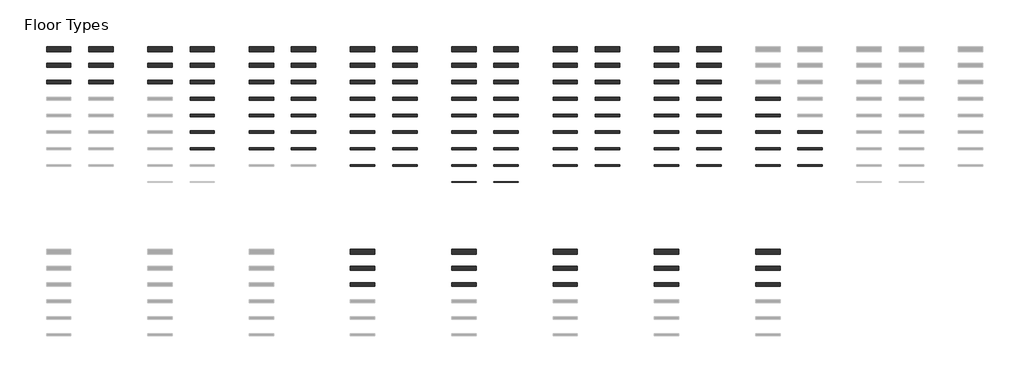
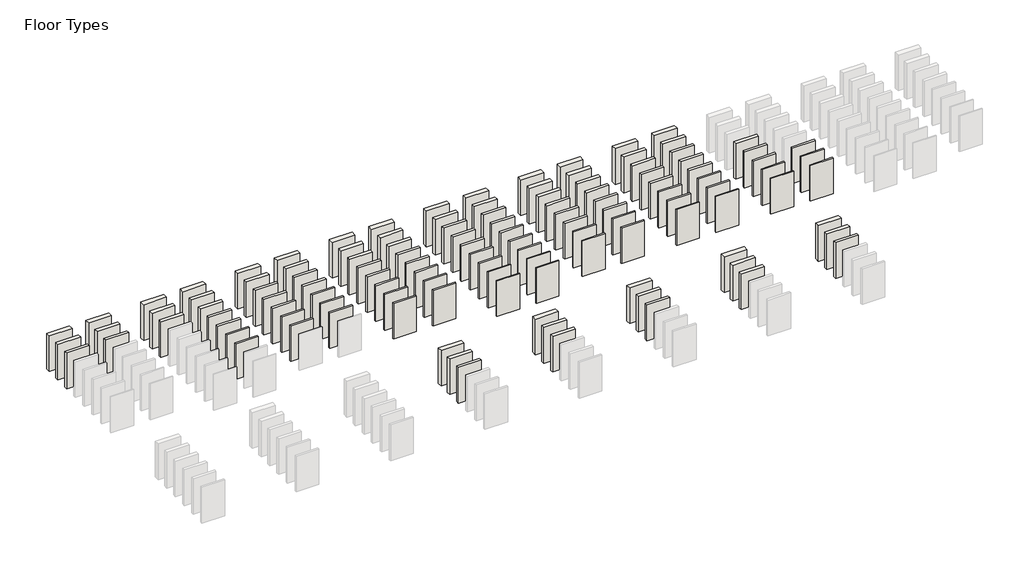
# One storey, part 3 of 4: 119 walls.
"""IFC4 building model written with IfcOpenShell, lengths in millimetres."""

from ifc_helpers import new_model, si_unit, origin, origin_with_axes, place, context, project, spatial, polyline, outline, extrude, element, save

model = new_model("IFC4")

# Units and contexts
model_context = context("Model", 3, world=origin())
ifc_project = project(units=[si_unit("LENGTHUNIT", "METRE", prefix="MILLI")], contexts=[model_context])

# Site, building, storey
site = spatial("IfcSite", under=ifc_project)
building = spatial("IfcBuilding", under=site)
storey = spatial("IfcBuildingStorey", under=building, Name="Floor Types", Elevation=0.0)

# Walls
placement = place(None, origin())
element("IfcWall", 1, ObjectType="ASTL_PS1200ZW_Hz_300mm", at=placement, inside=storey, context=model_context, shape_type="SweptSolid", body=[
    extrude(outline(polyline([(1447.8085217, -17299.0), (0.0, -17299.0), (0.0, -16999.0), (1447.8085217, -16999.0), (1447.8085217, -17299.0)])), origin_with_axes(), (0.0, 0.0, 1.0), 2400.0),
])
element("IfcWall", 2, ObjectType="ASTL_PS1200ZW_Hz_240mm", at=placement, inside=storey, context=model_context, shape_type="SweptSolid", body=[
    extrude(outline(polyline([(1447.8085217, -18238.0), (0.0, -18238.0), (0.0, -17998.0), (1447.8085217, -17998.0), (1447.8085217, -18238.0)])), origin_with_axes(), (0.0, 0.0, 1.0), 2400.0),
])
element("IfcWall", 3, ObjectType="ASTL_PS1200ZW_Hz_200mm", at=placement, inside=storey, context=model_context, shape_type="SweptSolid", body=[
    extrude(outline(polyline([(1447.8085217, -19198.0), (0.0, -19198.0), (0.0, -18998.0), (1447.8085217, -18998.0), (1447.8085217, -19198.0)])), origin_with_axes(), (0.0, 0.0, 1.0), 2400.0),
])
element("IfcWall", 4, ObjectType="ASTL_PS1200ZW_Vt_300mm", at=placement, inside=storey, context=model_context, shape_type="SweptSolid", body=[
    extrude(outline(polyline([(3947.5922316, -17299.0), (2499.78371, -17299.0), (2499.78371, -16999.0), (3947.5922316, -16999.0), (3947.5922316, -17299.0)])), origin_with_axes(), (0.0, 0.0, 1.0), 2400.0),
])
element("IfcWall", 5, ObjectType="ASTL_PS1200ZW_Vt_240mm", at=placement, inside=storey, context=model_context, shape_type="SweptSolid", body=[
    extrude(outline(polyline([(3947.5922316, -18239.0), (2499.78371, -18239.0), (2499.78371, -17999.0), (3947.5922316, -17999.0), (3947.5922316, -18239.0)])), origin_with_axes(), (0.0, 0.0, 1.0), 2400.0),
])
element("IfcWall", 6, ObjectType="ASTL_PS1200ZW_Vt_200mm", at=placement, inside=storey, context=model_context, shape_type="SweptSolid", body=[
    extrude(outline(polyline([(3947.5922316, -19199.0), (2499.78371, -19199.0), (2499.78371, -18999.0), (3947.5922316, -18999.0), (3947.5922316, -19199.0)])), origin_with_axes(), (0.0, 0.0, 1.0), 2400.0),
])
element("IfcWall", 7, ObjectType="ASTE_PS1200ZW_Hz_300mm", at=placement, inside=storey, context=model_context, shape_type="SweptSolid", body=[
    extrude(outline(polyline([(7447.8085217, -17299.0), (6000.0, -17299.0), (6000.0, -16999.0), (7447.8085217, -16999.0), (7447.8085217, -17299.0)])), origin_with_axes(), (0.0, 0.0, 1.0), 2400.0),
])
element("IfcWall", 8, ObjectType="ASTE_PS1200ZW_Hz_240mm", at=placement, inside=storey, context=model_context, shape_type="SweptSolid", body=[
    extrude(outline(polyline([(7447.8085217, -18239.0), (6000.0, -18239.0), (6000.0, -17999.0), (7447.8085217, -17999.0), (7447.8085217, -18239.0)])), origin_with_axes(), (0.0, 0.0, 1.0), 2400.0),
])
element("IfcWall", 9, ObjectType="ASTE_PS1200ZW_Hz_200mm", at=placement, inside=storey, context=model_context, shape_type="SweptSolid", body=[
    extrude(outline(polyline([(7447.8085217, -19199.0), (6000.0, -19199.0), (6000.0, -18999.0), (7447.8085217, -18999.0), (7447.8085217, -19199.0)])), origin_with_axes(), (0.0, 0.0, 1.0), 2400.0),
])
element("IfcWall", 10, ObjectType="ASTE_PS1200ZW_Vt_300mm", at=placement, inside=storey, context=model_context, shape_type="SweptSolid", body=[
    extrude(outline(polyline([(9947.5922316, -17299.0), (8500.0, -17299.0), (8500.0, -16999.0), (9947.5922316, -16999.0), (9947.5922316, -17299.0)])), origin_with_axes(), (0.0, 0.0, 1.0), 2400.0),
])
element("IfcWall", 11, ObjectType="ASTE_PS1200ZW_Vt_240mm", at=placement, inside=storey, context=model_context, shape_type="SweptSolid", body=[
    extrude(outline(polyline([(9947.5922316, -18239.0), (8500.0, -18239.0), (8500.0, -17999.0), (9947.5922316, -17999.0), (9947.5922316, -18239.0)])), origin_with_axes(), (0.0, 0.0, 1.0), 2400.0),
])
element("IfcWall", 12, ObjectType="ASTE_PS1200ZW_Vt_200mm", at=placement, inside=storey, context=model_context, shape_type="SweptSolid", body=[
    extrude(outline(polyline([(9947.5922316, -19199.0), (8500.0, -19199.0), (8500.0, -18999.0), (9947.5922316, -18999.0), (9947.5922316, -19199.0)])), origin_with_axes(), (0.0, 0.0, 1.0), 2400.0),
])
element("IfcWall", 13, ObjectType="ASTE_PS1200ZW_Vt_175mm", at=placement, inside=storey, context=model_context, shape_type="SweptSolid", body=[
    extrude(outline(polyline([(9947.5922316, -20174.0), (8500.0, -20174.0), (8500.0, -19999.0), (9947.5922316, -19999.0), (9947.5922316, -20174.0)])), origin_with_axes(), (0.0, 0.0, 1.0), 2400.0),
])
element("IfcWall", 14, ObjectType="ASTE_PS1200ZW_Vt_150mm", at=placement, inside=storey, context=model_context, shape_type="SweptSolid", body=[
    extrude(outline(polyline([(9947.5922316, -21149.0), (8500.0, -21149.0), (8500.0, -20999.0), (9947.5922316, -20999.0), (9947.5922316, -21149.0)])), origin_with_axes(), (0.0, 0.0, 1.0), 2400.0),
])
element("IfcWall", 15, ObjectType="ASTE_PS1200ZW_Vt_120mm", at=placement, inside=storey, context=model_context, shape_type="SweptSolid", body=[
    extrude(outline(polyline([(9947.5922316, -22119.0), (8500.0, -22119.0), (8500.0, -21999.0), (9947.5922316, -21999.0), (9947.5922316, -22119.0)])), origin_with_axes(), (0.0, 0.0, 1.0), 2400.0),
])
element("IfcWall", 16, ObjectType="ASTE_PS1200ZW_Vt_100mm", at=placement, inside=storey, context=model_context, shape_type="SweptSolid", body=[
    extrude(outline(polyline([(9947.5922316, -23099.0), (8500.0, -23099.0), (8500.0, -22999.0), (9947.5922316, -22999.0), (9947.5922316, -23099.0)])), origin_with_axes(), (0.0, 0.0, 1.0), 2400.0),
])
element("IfcWall", 17, ObjectType="ASTS_PS1200ZW_Hz_300mm", at=placement, inside=storey, context=model_context, shape_type="SweptSolid", body=[
    extrude(outline(polyline([(13447.8085217, -17299.0), (12000.0, -17299.0), (12000.0, -16999.0), (13447.8085217, -16999.0), (13447.8085217, -17299.0)])), origin_with_axes(), (0.0, 0.0, 1.0), 2400.0),
])
element("IfcWall", 18, ObjectType="ASTS_PS1200ZW_Hz_240mm", at=placement, inside=storey, context=model_context, shape_type="SweptSolid", body=[
    extrude(outline(polyline([(13447.8085217, -18239.0), (12000.0, -18239.0), (12000.0, -17999.0), (13447.8085217, -17999.0), (13447.8085217, -18239.0)])), origin_with_axes(), (0.0, 0.0, 1.0), 2400.0),
])
element("IfcWall", 19, ObjectType="ASTS_PS1200ZW_Hz_200mm", at=placement, inside=storey, context=model_context, shape_type="SweptSolid", body=[
    extrude(outline(polyline([(13447.8085217, -19199.0), (12000.0, -19199.0), (12000.0, -18999.0), (13447.8085217, -18999.0), (13447.8085217, -19199.0)])), origin_with_axes(), (0.0, 0.0, 1.0), 2400.0),
])
element("IfcWall", 20, ObjectType="ASTS_PS1200ZW_Hz_175mm", at=placement, inside=storey, context=model_context, shape_type="SweptSolid", body=[
    extrude(outline(polyline([(13447.8085217, -20174.0), (12000.0, -20174.0), (12000.0, -19999.0), (13447.8085217, -19999.0), (13447.8085217, -20174.0)])), origin_with_axes(), (0.0, 0.0, 1.0), 2400.0),
])
element("IfcWall", 21, ObjectType="ASTS_PS1200ZW_Hz_150mm", at=placement, inside=storey, context=model_context, shape_type="SweptSolid", body=[
    extrude(outline(polyline([(13447.8085217, -21149.0), (12000.0, -21149.0), (12000.0, -20999.0), (13447.8085217, -20999.0), (13447.8085217, -21149.0)])), origin_with_axes(), (0.0, 0.0, 1.0), 2400.0),
])
element("IfcWall", 22, ObjectType="ASTS_PS1200ZW_Hz_120mm", at=placement, inside=storey, context=model_context, shape_type="SweptSolid", body=[
    extrude(outline(polyline([(13447.8085217, -22119.0), (12000.0, -22119.0), (12000.0, -21999.0), (13447.8085217, -21999.0), (13447.8085217, -22119.0)])), origin_with_axes(), (0.0, 0.0, 1.0), 2400.0),
])
element("IfcWall", 23, ObjectType="ASTS_PS1200ZW_Hz_100mm", at=placement, inside=storey, context=model_context, shape_type="SweptSolid", body=[
    extrude(outline(polyline([(13447.8085217, -23099.0), (12000.0, -23099.0), (12000.0, -22999.0), (13447.8085217, -22999.0), (13447.8085217, -23099.0)])), origin_with_axes(), (0.0, 0.0, 1.0), 2400.0),
])
element("IfcWall", 24, ObjectType="ASTS_PS1200ZW_Vt_300mm", at=placement, inside=storey, context=model_context, shape_type="SweptSolid", body=[
    extrude(outline(polyline([(15947.8085217, -17299.0), (14500.0, -17299.0), (14500.0, -16999.0), (15947.8085217, -16999.0), (15947.8085217, -17299.0)])), origin_with_axes(), (0.0, 0.0, 1.0), 2400.0),
])
element("IfcWall", 25, ObjectType="ASTS_PS1200ZW_Vt_240mm", at=placement, inside=storey, context=model_context, shape_type="SweptSolid", body=[
    extrude(outline(polyline([(15947.8085217, -18239.0), (14500.0, -18239.0), (14500.0, -17999.0), (15947.8085217, -17999.0), (15947.8085217, -18239.0)])), origin_with_axes(), (0.0, 0.0, 1.0), 2400.0),
])
element("IfcWall", 26, ObjectType="ASTS_PS1200ZW_Vt_200mm", at=placement, inside=storey, context=model_context, shape_type="SweptSolid", body=[
    extrude(outline(polyline([(15947.8085217, -19199.0), (14500.0, -19199.0), (14500.0, -18999.0), (15947.8085217, -18999.0), (15947.8085217, -19199.0)])), origin_with_axes(), (0.0, 0.0, 1.0), 2400.0),
])
element("IfcWall", 27, ObjectType="ASTS_PS1200ZW_Vt_175mm", at=placement, inside=storey, context=model_context, shape_type="SweptSolid", body=[
    extrude(outline(polyline([(15947.8085217, -20174.0), (14500.0, -20174.0), (14500.0, -19999.0), (15947.8085217, -19999.0), (15947.8085217, -20174.0)])), origin_with_axes(), (0.0, 0.0, 1.0), 2400.0),
])
element("IfcWall", 28, ObjectType="ASTS_PS1200ZW_Vt_150mm", at=placement, inside=storey, context=model_context, shape_type="SweptSolid", body=[
    extrude(outline(polyline([(15947.8085217, -21149.0), (14500.0, -21149.0), (14500.0, -20999.0), (15947.8085217, -20999.0), (15947.8085217, -21149.0)])), origin_with_axes(), (0.0, 0.0, 1.0), 2400.0),
])
element("IfcWall", 29, ObjectType="ASTS_PS1200ZW_Vt_120mm", at=placement, inside=storey, context=model_context, shape_type="SweptSolid", body=[
    extrude(outline(polyline([(15947.8085217, -22119.0), (14500.0, -22119.0), (14500.0, -21999.0), (15947.8085217, -21999.0), (15947.8085217, -22119.0)])), origin_with_axes(), (0.0, 0.0, 1.0), 2400.0),
])
element("IfcWall", 30, ObjectType="ASTS_PS1200ZW_Vt_100mm", at=placement, inside=storey, context=model_context, shape_type="SweptSolid", body=[
    extrude(outline(polyline([(15947.8085217, -23099.0), (14500.0, -23099.0), (14500.0, -22999.0), (15947.8085217, -22999.0), (15947.8085217, -23099.0)])), origin_with_axes(), (0.0, 0.0, 1.0), 2400.0),
])
element("IfcWall", 31, ObjectType="ASTL_PS1200PB_Hz_300mm", at=placement, inside=storey, context=model_context, shape_type="SweptSolid", body=[
    extrude(outline(polyline([(19447.8085217, -17299.0), (18000.0, -17299.0), (18000.0, -16999.0), (19447.8085217, -16999.0), (19447.8085217, -17299.0)])), origin_with_axes(), (0.0, 0.0, 1.0), 2400.0),
])
element("IfcWall", 32, ObjectType="ASTL_PS1200PB_Hz_240mm", at=placement, inside=storey, context=model_context, shape_type="SweptSolid", body=[
    extrude(outline(polyline([(19447.8085217, -18239.0), (18000.0, -18239.0), (18000.0, -17999.0), (19447.8085217, -17999.0), (19447.8085217, -18239.0)])), origin_with_axes(), (0.0, 0.0, 1.0), 2400.0),
])
element("IfcWall", 33, ObjectType="ASTL_PS1200PB_Hz_200mm", at=placement, inside=storey, context=model_context, shape_type="SweptSolid", body=[
    extrude(outline(polyline([(19447.8085217, -19199.0), (18000.0, -19199.0), (18000.0, -18999.0), (19447.8085217, -18999.0), (19447.8085217, -19199.0)])), origin_with_axes(), (0.0, 0.0, 1.0), 2400.0),
])
element("IfcWall", 34, ObjectType="ASTL_PS1200PB_Hz_175mm", at=placement, inside=storey, context=model_context, shape_type="SweptSolid", body=[
    extrude(outline(polyline([(19447.8085217, -20174.0), (18000.0, -20174.0), (18000.0, -19999.0), (19447.8085217, -19999.0), (19447.8085217, -20174.0)])), origin_with_axes(), (0.0, 0.0, 1.0), 2400.0),
])
element("IfcWall", 35, ObjectType="ASTL_PS1200PB_Hz_150mm", at=placement, inside=storey, context=model_context, shape_type="SweptSolid", body=[
    extrude(outline(polyline([(19447.8085217, -21149.0), (18000.0, -21149.0), (18000.0, -20999.0), (19447.8085217, -20999.0), (19447.8085217, -21149.0)])), origin_with_axes(), (0.0, 0.0, 1.0), 2400.0),
])
element("IfcWall", 36, ObjectType="ASTL_PS1200PB_Hz_120mm", at=placement, inside=storey, context=model_context, shape_type="SweptSolid", body=[
    extrude(outline(polyline([(19447.8085217, -22119.0), (18000.0, -22119.0), (18000.0, -21999.0), (19447.8085217, -21999.0), (19447.8085217, -22119.0)])), origin_with_axes(), (0.0, 0.0, 1.0), 2400.0),
])
element("IfcWall", 37, ObjectType="ASTL_PS1200PB_Hz_100mm", at=placement, inside=storey, context=model_context, shape_type="SweptSolid", body=[
    extrude(outline(polyline([(19447.8085217, -23099.0), (18000.0, -23099.0), (18000.0, -22999.0), (19447.8085217, -22999.0), (19447.8085217, -23099.0)])), origin_with_axes(), (0.0, 0.0, 1.0), 2400.0),
])
element("IfcWall", 38, ObjectType="ASTL_PS1200PB_Hz_080mm", at=placement, inside=storey, context=model_context, shape_type="SweptSolid", body=[
    extrude(outline(polyline([(19447.8085217, -24079.0), (18000.0, -24079.0), (18000.0, -23999.0), (19447.8085217, -23999.0), (19447.8085217, -24079.0)])), origin_with_axes(), (0.0, 0.0, 1.0), 2400.0),
])
element("IfcWall", 39, ObjectType="ASTL_PS1200PB_Vt_300mm", at=placement, inside=storey, context=model_context, shape_type="SweptSolid", body=[
    extrude(outline(polyline([(21947.8085217, -17299.0), (20500.0, -17299.0), (20500.0, -16999.0), (21947.8085217, -16999.0), (21947.8085217, -17299.0)])), origin_with_axes(), (0.0, 0.0, 1.0), 2400.0),
])
element("IfcWall", 40, ObjectType="ASTL_PS1200PB_Vt_240mm", at=placement, inside=storey, context=model_context, shape_type="SweptSolid", body=[
    extrude(outline(polyline([(21947.8085217, -18239.0), (20500.0, -18239.0), (20500.0, -17999.0), (21947.8085217, -17999.0), (21947.8085217, -18239.0)])), origin_with_axes(), (0.0, 0.0, 1.0), 2400.0),
])
element("IfcWall", 41, ObjectType="ASTL_PS1200PB_Vt_200mm", at=placement, inside=storey, context=model_context, shape_type="SweptSolid", body=[
    extrude(outline(polyline([(21947.8085217, -19199.0), (20500.0, -19199.0), (20500.0, -18999.0), (21947.8085217, -18999.0), (21947.8085217, -19199.0)])), origin_with_axes(), (0.0, 0.0, 1.0), 2400.0),
])
element("IfcWall", 42, ObjectType="ASTL_PS1200PB_Vt_175mm", at=placement, inside=storey, context=model_context, shape_type="SweptSolid", body=[
    extrude(outline(polyline([(21947.8085217, -20174.0), (20500.0, -20174.0), (20500.0, -19999.0), (21947.8085217, -19999.0), (21947.8085217, -20174.0)])), origin_with_axes(), (0.0, 0.0, 1.0), 2400.0),
])
element("IfcWall", 43, ObjectType="ASTL_PS1200PB_Vt_150mm", at=placement, inside=storey, context=model_context, shape_type="SweptSolid", body=[
    extrude(outline(polyline([(21947.8085217, -21149.0), (20500.0, -21149.0), (20500.0, -20999.0), (21947.8085217, -20999.0), (21947.8085217, -21149.0)])), origin_with_axes(), (0.0, 0.0, 1.0), 2400.0),
])
element("IfcWall", 44, ObjectType="ASTL_PS1200PB_Vt_120mm", at=placement, inside=storey, context=model_context, shape_type="SweptSolid", body=[
    extrude(outline(polyline([(21947.8085217, -22119.0), (20500.0, -22119.0), (20500.0, -21999.0), (21947.8085217, -21999.0), (21947.8085217, -22119.0)])), origin_with_axes(), (0.0, 0.0, 1.0), 2400.0),
])
element("IfcWall", 45, ObjectType="ASTL_PS1200PB_Vt_100mm", at=placement, inside=storey, context=model_context, shape_type="SweptSolid", body=[
    extrude(outline(polyline([(21947.8085217, -23099.0), (20500.0, -23099.0), (20500.0, -22999.0), (21947.8085217, -22999.0), (21947.8085217, -23099.0)])), origin_with_axes(), (0.0, 0.0, 1.0), 2400.0),
])
element("IfcWall", 46, ObjectType="ASTL_PS1200PB_Vt_080mm", at=placement, inside=storey, context=model_context, shape_type="SweptSolid", body=[
    extrude(outline(polyline([(21947.8085217, -24079.0), (20500.0, -24079.0), (20500.0, -23999.0), (21947.8085217, -23999.0), (21947.8085217, -24079.0)])), origin_with_axes(), (0.0, 0.0, 1.0), 2400.0),
])
element("IfcWall", 47, ObjectType="ASTE_PS1200PB_Hz_300mm", at=placement, inside=storey, context=model_context, shape_type="SweptSolid", body=[
    extrude(outline(polyline([(25447.8085217, -17298.0), (24000.0, -17298.0), (24000.0, -16998.0), (25447.8085217, -16998.0), (25447.8085217, -17298.0)])), origin_with_axes(), (0.0, 0.0, 1.0), 2400.0),
])
element("IfcWall", 48, ObjectType="ASTE_PS1200PB_Hz_240mm", at=placement, inside=storey, context=model_context, shape_type="SweptSolid", body=[
    extrude(outline(polyline([(25447.8085217, -18239.0), (24000.0, -18239.0), (24000.0, -17999.0), (25447.8085217, -17999.0), (25447.8085217, -18239.0)])), origin_with_axes(), (0.0, 0.0, 1.0), 2400.0),
])
element("IfcWall", 49, ObjectType="ASTE_PS1200PB_Hz_200mm", at=placement, inside=storey, context=model_context, shape_type="SweptSolid", body=[
    extrude(outline(polyline([(25447.8085217, -19199.0), (24000.0, -19199.0), (24000.0, -18999.0), (25447.8085217, -18999.0), (25447.8085217, -19199.0)])), origin_with_axes(), (0.0, 0.0, 1.0), 2400.0),
])
element("IfcWall", 50, ObjectType="ASTE_PS1200PB_Hz_175mm", at=placement, inside=storey, context=model_context, shape_type="SweptSolid", body=[
    extrude(outline(polyline([(25447.8085217, -20174.0), (24000.0, -20174.0), (24000.0, -19999.0), (25447.8085217, -19999.0), (25447.8085217, -20174.0)])), origin_with_axes(), (0.0, 0.0, 1.0), 2400.0),
])
element("IfcWall", 51, ObjectType="ASTE_PS1200PB_Hz_150mm", at=placement, inside=storey, context=model_context, shape_type="SweptSolid", body=[
    extrude(outline(polyline([(25447.8085217, -21149.0), (24000.0, -21149.0), (24000.0, -20999.0), (25447.8085217, -20999.0), (25447.8085217, -21149.0)])), origin_with_axes(), (0.0, 0.0, 1.0), 2400.0),
])
element("IfcWall", 52, ObjectType="ASTE_PS1200PB_Hz_120mm", at=placement, inside=storey, context=model_context, shape_type="SweptSolid", body=[
    extrude(outline(polyline([(25447.8085217, -22119.0), (24000.0, -22119.0), (24000.0, -21999.0), (25447.8085217, -21999.0), (25447.8085217, -22119.0)])), origin_with_axes(), (0.0, 0.0, 1.0), 2400.0),
])
element("IfcWall", 53, ObjectType="ASTE_PS1200PB_Hz_100mm", at=placement, inside=storey, context=model_context, shape_type="SweptSolid", body=[
    extrude(outline(polyline([(25447.8085217, -23099.0), (24000.0, -23099.0), (24000.0, -22999.0), (25447.8085217, -22999.0), (25447.8085217, -23099.0)])), origin_with_axes(), (0.0, 0.0, 1.0), 2400.0),
])
element("IfcWall", 54, ObjectType="ASTE_PS1200PB_Hz_080mm", at=placement, inside=storey, context=model_context, shape_type="SweptSolid", body=[
    extrude(outline(polyline([(25447.8085217, -24079.0), (24000.0, -24079.0), (24000.0, -23999.0), (25447.8085217, -23999.0), (25447.8085217, -24079.0)])), origin_with_axes(), (0.0, 0.0, 1.0), 2400.0),
])
element("IfcWall", 55, ObjectType="ASTE_PS1200PB_Vt_300mm", at=placement, inside=storey, context=model_context, shape_type="SweptSolid", body=[
    extrude(outline(polyline([(27947.8085217, -17299.0), (26500.0, -17299.0), (26500.0, -16999.0), (27947.8085217, -16999.0), (27947.8085217, -17299.0)])), origin_with_axes(), (0.0, 0.0, 1.0), 2400.0),
])
element("IfcWall", 56, ObjectType="ASTE_PS1200PB_Vt_240mm", at=placement, inside=storey, context=model_context, shape_type="SweptSolid", body=[
    extrude(outline(polyline([(27947.8085217, -18239.0), (26500.0, -18239.0), (26500.0, -17999.0), (27947.8085217, -17999.0), (27947.8085217, -18239.0)])), origin_with_axes(), (0.0, 0.0, 1.0), 2400.0),
])
element("IfcWall", 57, ObjectType="ASTE_PS1200PB_Vt_200mm", at=placement, inside=storey, context=model_context, shape_type="SweptSolid", body=[
    extrude(outline(polyline([(27947.8085217, -19199.0), (26500.0, -19199.0), (26500.0, -18999.0), (27947.8085217, -18999.0), (27947.8085217, -19199.0)])), origin_with_axes(), (0.0, 0.0, 1.0), 2400.0),
])
element("IfcWall", 58, ObjectType="ASTE_PS1200PB_Vt_175mm", at=placement, inside=storey, context=model_context, shape_type="SweptSolid", body=[
    extrude(outline(polyline([(27947.8085217, -20174.0), (26500.0, -20174.0), (26500.0, -19999.0), (27947.8085217, -19999.0), (27947.8085217, -20174.0)])), origin_with_axes(), (0.0, 0.0, 1.0), 2400.0),
])
element("IfcWall", 59, ObjectType="ASTE_PS1200PB_Vt_150mm", at=placement, inside=storey, context=model_context, shape_type="SweptSolid", body=[
    extrude(outline(polyline([(27947.8085217, -21149.0), (26500.0, -21149.0), (26500.0, -20999.0), (27947.8085217, -20999.0), (27947.8085217, -21149.0)])), origin_with_axes(), (0.0, 0.0, 1.0), 2400.0),
])
element("IfcWall", 60, ObjectType="ASTE_PS1200PB_Vt_120mm", at=placement, inside=storey, context=model_context, shape_type="SweptSolid", body=[
    extrude(outline(polyline([(27947.8085217, -22119.0), (26500.0, -22119.0), (26500.0, -21999.0), (27947.8085217, -21999.0), (27947.8085217, -22119.0)])), origin_with_axes(), (0.0, 0.0, 1.0), 2400.0),
])
element("IfcWall", 61, ObjectType="ASTE_PS1200PB_Vt_100mm", at=placement, inside=storey, context=model_context, shape_type="SweptSolid", body=[
    extrude(outline(polyline([(27947.8085217, -23099.0), (26500.0, -23099.0), (26500.0, -22999.0), (27947.8085217, -22999.0), (27947.8085217, -23099.0)])), origin_with_axes(), (0.0, 0.0, 1.0), 2400.0),
])
element("IfcWall", 62, ObjectType="ASTE_PS1200PB_Vt_080mm", at=placement, inside=storey, context=model_context, shape_type="SweptSolid", body=[
    extrude(outline(polyline([(27947.8085217, -24079.0), (26500.0, -24079.0), (26500.0, -23999.0), (27947.8085217, -23999.0), (27947.8085217, -24079.0)])), origin_with_axes(), (0.0, 0.0, 1.0), 2400.0),
])
element("IfcWall", 63, ObjectType="ASTE_PS1200PB_Hz_050mm", at=placement, inside=storey, context=model_context, shape_type="SweptSolid", body=[
    extrude(outline(polyline([(25447.8085217, -25049.0), (24000.0, -25049.0), (24000.0, -24999.0), (25447.8085217, -24999.0), (25447.8085217, -25049.0)])), origin_with_axes(), (0.0, 0.0, 1.0), 2400.0),
])
element("IfcWall", 64, ObjectType="ASTE_PS1200PB_Vt_050mm", at=placement, inside=storey, context=model_context, shape_type="SweptSolid", body=[
    extrude(outline(polyline([(27947.8085217, -25049.0), (26500.0, -25049.0), (26500.0, -24999.0), (27947.8085217, -24999.0), (27947.8085217, -25049.0)])), origin_with_axes(), (0.0, 0.0, 1.0), 2400.0),
])
element("IfcWall", 65, ObjectType="ASTF_PS1200PB_Hz_300mm", at=placement, inside=storey, context=model_context, shape_type="SweptSolid", body=[
    extrude(outline(polyline([(31447.8085217, -17298.0), (30000.0, -17298.0), (30000.0, -16998.0), (31447.8085217, -16998.0), (31447.8085217, -17298.0)])), origin_with_axes(), (0.0, 0.0, 1.0), 2400.0),
])
element("IfcWall", 66, ObjectType="ASTF_PS1200PB_Hz_240mm", at=placement, inside=storey, context=model_context, shape_type="SweptSolid", body=[
    extrude(outline(polyline([(31447.8085217, -18239.0), (30000.0, -18239.0), (30000.0, -17999.0), (31447.8085217, -17999.0), (31447.8085217, -18239.0)])), origin_with_axes(), (0.0, 0.0, 1.0), 2400.0),
])
element("IfcWall", 67, ObjectType="ASTF_PS1200PB_Hz_200mm", at=placement, inside=storey, context=model_context, shape_type="SweptSolid", body=[
    extrude(outline(polyline([(31447.8085217, -19199.0), (30000.0, -19199.0), (30000.0, -18999.0), (31447.8085217, -18999.0), (31447.8085217, -19199.0)])), origin_with_axes(), (0.0, 0.0, 1.0), 2400.0),
])
element("IfcWall", 68, ObjectType="ASTF_PS1200PB_Hz_175mm", at=placement, inside=storey, context=model_context, shape_type="SweptSolid", body=[
    extrude(outline(polyline([(31447.8085217, -20174.0), (30000.0, -20174.0), (30000.0, -19999.0), (31447.8085217, -19999.0), (31447.8085217, -20174.0)])), origin_with_axes(), (0.0, 0.0, 1.0), 2400.0),
])
element("IfcWall", 69, ObjectType="ASTF_PS1200PB_Hz_150mm", at=placement, inside=storey, context=model_context, shape_type="SweptSolid", body=[
    extrude(outline(polyline([(31447.8085217, -21149.0), (30000.0, -21149.0), (30000.0, -20999.0), (31447.8085217, -20999.0), (31447.8085217, -21149.0)])), origin_with_axes(), (0.0, 0.0, 1.0), 2400.0),
])
element("IfcWall", 70, ObjectType="ASTF_PS1200PB_Hz_120mm", at=placement, inside=storey, context=model_context, shape_type="SweptSolid", body=[
    extrude(outline(polyline([(31447.8085217, -22119.0), (30000.0, -22119.0), (30000.0, -21999.0), (31447.8085217, -21999.0), (31447.8085217, -22119.0)])), origin_with_axes(), (0.0, 0.0, 1.0), 2400.0),
])
element("IfcWall", 71, ObjectType="ASTF_PS1200PB_Hz_100mm", at=placement, inside=storey, context=model_context, shape_type="SweptSolid", body=[
    extrude(outline(polyline([(31447.8085217, -23099.0), (30000.0, -23099.0), (30000.0, -22999.0), (31447.8085217, -22999.0), (31447.8085217, -23099.0)])), origin_with_axes(), (0.0, 0.0, 1.0), 2400.0),
])
element("IfcWall", 72, ObjectType="ASTF_PS1200PB_Hz_080mm", at=placement, inside=storey, context=model_context, shape_type="SweptSolid", body=[
    extrude(outline(polyline([(31447.8085217, -24079.0), (30000.0, -24079.0), (30000.0, -23999.0), (31447.8085217, -23999.0), (31447.8085217, -24079.0)])), origin_with_axes(), (0.0, 0.0, 1.0), 2400.0),
])
element("IfcWall", 73, ObjectType="ASTF_PS1200PB_Vt_300mm", at=placement, inside=storey, context=model_context, shape_type="SweptSolid", body=[
    extrude(outline(polyline([(33947.8085217, -17298.0), (32500.0, -17298.0), (32500.0, -16998.0), (33947.8085217, -16998.0), (33947.8085217, -17298.0)])), origin_with_axes(), (0.0, 0.0, 1.0), 2400.0),
])
element("IfcWall", 74, ObjectType="ASTF_PS1200PB_Vt_240mm", at=placement, inside=storey, context=model_context, shape_type="SweptSolid", body=[
    extrude(outline(polyline([(33947.8085217, -18239.0), (32500.0, -18239.0), (32500.0, -17999.0), (33947.8085217, -17999.0), (33947.8085217, -18239.0)])), origin_with_axes(), (0.0, 0.0, 1.0), 2400.0),
])
element("IfcWall", 75, ObjectType="ASTF_PS1200PB_Vt_200mm", at=placement, inside=storey, context=model_context, shape_type="SweptSolid", body=[
    extrude(outline(polyline([(33947.8085217, -19199.0), (32500.0, -19199.0), (32500.0, -18999.0), (33947.8085217, -18999.0), (33947.8085217, -19199.0)])), origin_with_axes(), (0.0, 0.0, 1.0), 2400.0),
])
element("IfcWall", 76, ObjectType="ASTF_PS1200PB_Vt_175mm", at=placement, inside=storey, context=model_context, shape_type="SweptSolid", body=[
    extrude(outline(polyline([(33947.8085217, -20174.0), (32500.0, -20174.0), (32500.0, -19999.0), (33947.8085217, -19999.0), (33947.8085217, -20174.0)])), origin_with_axes(), (0.0, 0.0, 1.0), 2400.0),
])
element("IfcWall", 77, ObjectType="ASTF_PS1200PB_Vt_150mm", at=placement, inside=storey, context=model_context, shape_type="SweptSolid", body=[
    extrude(outline(polyline([(33947.8085217, -21149.0), (32500.0, -21149.0), (32500.0, -20999.0), (33947.8085217, -20999.0), (33947.8085217, -21149.0)])), origin_with_axes(), (0.0, 0.0, 1.0), 2400.0),
])
element("IfcWall", 78, ObjectType="ASTF_PS1200PB_Vt_120mm", at=placement, inside=storey, context=model_context, shape_type="SweptSolid", body=[
    extrude(outline(polyline([(33947.8085217, -22119.0), (32500.0, -22119.0), (32500.0, -21999.0), (33947.8085217, -21999.0), (33947.8085217, -22119.0)])), origin_with_axes(), (0.0, 0.0, 1.0), 2400.0),
])
element("IfcWall", 79, ObjectType="ASTF_PS1200PB_Vt_100mm", at=placement, inside=storey, context=model_context, shape_type="SweptSolid", body=[
    extrude(outline(polyline([(33947.8085217, -23099.0), (32500.0, -23099.0), (32500.0, -22999.0), (33947.8085217, -22999.0), (33947.8085217, -23099.0)])), origin_with_axes(), (0.0, 0.0, 1.0), 2400.0),
])
element("IfcWall", 80, ObjectType="ASTF_PS1200PB_Vt_080mm", at=placement, inside=storey, context=model_context, shape_type="SweptSolid", body=[
    extrude(outline(polyline([(33947.8085217, -24079.0), (32500.0, -24079.0), (32500.0, -23999.0), (33947.8085217, -23999.0), (33947.8085217, -24079.0)])), origin_with_axes(), (0.0, 0.0, 1.0), 2400.0),
])
element("IfcWall", 81, ObjectType="ASTS_PS1200PB_Hz_300mm", at=placement, inside=storey, context=model_context, shape_type="SweptSolid", body=[
    extrude(outline(polyline([(37447.8085217, -17298.0), (36000.0, -17298.0), (36000.0, -16998.0), (37447.8085217, -16998.0), (37447.8085217, -17298.0)])), origin_with_axes(), (0.0, 0.0, 1.0), 2400.0),
])
element("IfcWall", 82, ObjectType="ASTS_PS1200PB_Hz_240mm", at=placement, inside=storey, context=model_context, shape_type="SweptSolid", body=[
    extrude(outline(polyline([(37447.8085217, -18239.0), (36000.0, -18239.0), (36000.0, -17999.0), (37447.8085217, -17999.0), (37447.8085217, -18239.0)])), origin_with_axes(), (0.0, 0.0, 1.0), 2400.0),
])
element("IfcWall", 83, ObjectType="ASTS_PS1200PB_Hz_200mm", at=placement, inside=storey, context=model_context, shape_type="SweptSolid", body=[
    extrude(outline(polyline([(37447.8085217, -19199.0), (36000.0, -19199.0), (36000.0, -18999.0), (37447.8085217, -18999.0), (37447.8085217, -19199.0)])), origin_with_axes(), (0.0, 0.0, 1.0), 2400.0),
])
element("IfcWall", 84, ObjectType="ASTS_PS1200PB_Hz_175mm", at=placement, inside=storey, context=model_context, shape_type="SweptSolid", body=[
    extrude(outline(polyline([(37447.8085217, -20174.0), (36000.0, -20174.0), (36000.0, -19999.0), (37447.8085217, -19999.0), (37447.8085217, -20174.0)])), origin_with_axes(), (0.0, 0.0, 1.0), 2400.0),
])
element("IfcWall", 85, ObjectType="ASTS_PS1200PB_Hz_150mm", at=placement, inside=storey, context=model_context, shape_type="SweptSolid", body=[
    extrude(outline(polyline([(37447.8085217, -21149.0), (36000.0, -21149.0), (36000.0, -20999.0), (37447.8085217, -20999.0), (37447.8085217, -21149.0)])), origin_with_axes(), (0.0, 0.0, 1.0), 2400.0),
])
element("IfcWall", 86, ObjectType="ASTS_PS1200PB_Hz_120mm", at=placement, inside=storey, context=model_context, shape_type="SweptSolid", body=[
    extrude(outline(polyline([(37447.8085217, -22119.0), (36000.0, -22119.0), (36000.0, -21999.0), (37447.8085217, -21999.0), (37447.8085217, -22119.0)])), origin_with_axes(), (0.0, 0.0, 1.0), 2400.0),
])
element("IfcWall", 87, ObjectType="ASTS_PS1200PB_Hz_100mm", at=placement, inside=storey, context=model_context, shape_type="SweptSolid", body=[
    extrude(outline(polyline([(37447.8085217, -23099.0), (36000.0, -23099.0), (36000.0, -22999.0), (37447.8085217, -22999.0), (37447.8085217, -23099.0)])), origin_with_axes(), (0.0, 0.0, 1.0), 2400.0),
])
element("IfcWall", 88, ObjectType="ASTS_PS1200PB_Hz_080mm", at=placement, inside=storey, context=model_context, shape_type="SweptSolid", body=[
    extrude(outline(polyline([(37447.8085217, -24079.0), (36000.0, -24079.0), (36000.0, -23999.0), (37447.8085217, -23999.0), (37447.8085217, -24079.0)])), origin_with_axes(), (0.0, 0.0, 1.0), 2400.0),
])
element("IfcWall", 89, ObjectType="ASTS_PS1200PB_Vt_300mm", at=placement, inside=storey, context=model_context, shape_type="SweptSolid", body=[
    extrude(outline(polyline([(39947.8085217, -17299.0), (38500.0, -17299.0), (38500.0, -16999.0), (39947.8085217, -16999.0), (39947.8085217, -17299.0)])), origin_with_axes(), (0.0, 0.0, 1.0), 2400.0),
])
element("IfcWall", 90, ObjectType="ASTS_PS1200PB_Vt_240mm", at=placement, inside=storey, context=model_context, shape_type="SweptSolid", body=[
    extrude(outline(polyline([(39947.8085217, -18239.0), (38500.0, -18239.0), (38500.0, -17999.0), (39947.8085217, -17999.0), (39947.8085217, -18239.0)])), origin_with_axes(), (0.0, 0.0, 1.0), 2400.0),
])
element("IfcWall", 91, ObjectType="ASTS_PS1200PB_Vt_200mm", at=placement, inside=storey, context=model_context, shape_type="SweptSolid", body=[
    extrude(outline(polyline([(39947.8085217, -19199.0), (38500.0, -19199.0), (38500.0, -18999.0), (39947.8085217, -18999.0), (39947.8085217, -19199.0)])), origin_with_axes(), (0.0, 0.0, 1.0), 2400.0),
])
element("IfcWall", 92, ObjectType="ASTS_PS1200PB_Vt_175mm", at=placement, inside=storey, context=model_context, shape_type="SweptSolid", body=[
    extrude(outline(polyline([(39947.8085217, -20174.0), (38500.0, -20174.0), (38500.0, -19999.0), (39947.8085217, -19999.0), (39947.8085217, -20174.0)])), origin_with_axes(), (0.0, 0.0, 1.0), 2400.0),
])
element("IfcWall", 93, ObjectType="ASTS_PS1200PB_Vt_150mm", at=placement, inside=storey, context=model_context, shape_type="SweptSolid", body=[
    extrude(outline(polyline([(39947.8085217, -21149.0), (38500.0, -21149.0), (38500.0, -20999.0), (39947.8085217, -20999.0), (39947.8085217, -21149.0)])), origin_with_axes(), (0.0, 0.0, 1.0), 2400.0),
])
element("IfcWall", 94, ObjectType="ASTS_PS1200PB_Vt_120mm", at=placement, inside=storey, context=model_context, shape_type="SweptSolid", body=[
    extrude(outline(polyline([(39947.8085217, -22119.0), (38500.0, -22119.0), (38500.0, -21999.0), (39947.8085217, -21999.0), (39947.8085217, -22119.0)])), origin_with_axes(), (0.0, 0.0, 1.0), 2400.0),
])
element("IfcWall", 95, ObjectType="ASTS_PS1200PB_Vt_100mm", at=placement, inside=storey, context=model_context, shape_type="SweptSolid", body=[
    extrude(outline(polyline([(39947.8085217, -23099.0), (38500.0, -23099.0), (38500.0, -22999.0), (39947.8085217, -22999.0), (39947.8085217, -23099.0)])), origin_with_axes(), (0.0, 0.0, 1.0), 2400.0),
])
element("IfcWall", 96, ObjectType="ASTS_PS1200PB_Vt_080mm", at=placement, inside=storey, context=model_context, shape_type="SweptSolid", body=[
    extrude(outline(polyline([(39947.8085217, -24079.0), (38500.0, -24079.0), (38500.0, -23999.0), (39947.8085217, -23999.0), (39947.8085217, -24079.0)])), origin_with_axes(), (0.0, 0.0, 1.0), 2400.0),
])
element("IfcWall", 97, ObjectType="ASTL_PS1200PB-LEC_Hz_175mm", at=placement, inside=storey, context=model_context, shape_type="SweptSolid", body=[
    extrude(outline(polyline([(43447.8085217, -20174.0), (42000.0, -20174.0), (42000.0, -19999.0), (43447.8085217, -19999.0), (43447.8085217, -20174.0)])), origin_with_axes(), (0.0, 0.0, 1.0), 2400.0),
])
element("IfcWall", 98, ObjectType="ASTL_PS1200PB-LEC_Hz_150mm", at=placement, inside=storey, context=model_context, shape_type="SweptSolid", body=[
    extrude(outline(polyline([(43447.8085217, -21149.0), (42000.0, -21149.0), (42000.0, -20999.0), (43447.8085217, -20999.0), (43447.8085217, -21149.0)])), origin_with_axes(), (0.0, 0.0, 1.0), 2400.0),
])
element("IfcWall", 99, ObjectType="ASTL_PS1200PB-LEC_Hz_120mm", at=placement, inside=storey, context=model_context, shape_type="SweptSolid", body=[
    extrude(outline(polyline([(43447.8085217, -22119.0), (42000.0, -22119.0), (42000.0, -21999.0), (43447.8085217, -21999.0), (43447.8085217, -22119.0)])), origin_with_axes(), (0.0, 0.0, 1.0), 2400.0),
])
element("IfcWall", 100, ObjectType="ASTL_PS1200PB-LEC_Hz_100mm", at=placement, inside=storey, context=model_context, shape_type="SweptSolid", body=[
    extrude(outline(polyline([(43447.8085217, -23099.0), (42000.0, -23099.0), (42000.0, -22999.0), (43447.8085217, -22999.0), (43447.8085217, -23099.0)])), origin_with_axes(), (0.0, 0.0, 1.0), 2400.0),
])
element("IfcWall", 101, ObjectType="ASTL_PS1200PB-LEC_Hz_080mm", at=placement, inside=storey, context=model_context, shape_type="SweptSolid", body=[
    extrude(outline(polyline([(43447.8085217, -24079.0), (42000.0, -24079.0), (42000.0, -23999.0), (43447.8085217, -23999.0), (43447.8085217, -24079.0)])), origin_with_axes(), (0.0, 0.0, 1.0), 2400.0),
])
element("IfcWall", 102, ObjectType="ASTL_PS1200PB-LEC_Vt_120mm", at=placement, inside=storey, context=model_context, shape_type="SweptSolid", body=[
    extrude(outline(polyline([(45947.8085217, -22119.0), (44500.0, -22119.0), (44500.0, -21999.0), (45947.8085217, -21999.0), (45947.8085217, -22119.0)])), origin_with_axes(), (0.0, 0.0, 1.0), 2400.0),
])
element("IfcWall", 103, ObjectType="ASTL_PS1200PB-LEC_Vt_100mm", at=placement, inside=storey, context=model_context, shape_type="SweptSolid", body=[
    extrude(outline(polyline([(45947.8085217, -23099.0), (44500.0, -23099.0), (44500.0, -22999.0), (45947.8085217, -22999.0), (45947.8085217, -23099.0)])), origin_with_axes(), (0.0, 0.0, 1.0), 2400.0),
])
element("IfcWall", 104, ObjectType="ASTL_PS1200PB-LEC_Vt_080mm", at=placement, inside=storey, context=model_context, shape_type="SweptSolid", body=[
    extrude(outline(polyline([(45947.8085217, -24079.0), (44500.0, -24079.0), (44500.0, -23999.0), (45947.8085217, -23999.0), (45947.8085217, -24079.0)])), origin_with_axes(), (0.0, 0.0, 1.0), 2400.0),
])
element("IfcWall", 105, ObjectType="ASTS_PS1200PD_Hz_300mm", at=placement, inside=storey, context=model_context, shape_type="SweptSolid", body=[
    extrude(outline(polyline([(19447.8085217, -29298.0), (18000.0, -29298.0), (18000.0, -28998.0), (19447.8085217, -28998.0), (19447.8085217, -29298.0)])), origin_with_axes(), (0.0, 0.0, 1.0), 2400.0),
])
element("IfcWall", 106, ObjectType="ASTS_PS1200PD_Hz_240mm", at=placement, inside=storey, context=model_context, shape_type="SweptSolid", body=[
    extrude(outline(polyline([(19447.8085217, -30239.0), (18000.0, -30239.0), (18000.0, -29999.0), (19447.8085217, -29999.0), (19447.8085217, -30239.0)])), origin_with_axes(), (0.0, 0.0, 1.0), 2400.0),
])
element("IfcWall", 107, ObjectType="ASTS_PS1200PD_Hz_200mm", at=placement, inside=storey, context=model_context, shape_type="SweptSolid", body=[
    extrude(outline(polyline([(19447.8085217, -31199.0), (18000.0, -31199.0), (18000.0, -30999.0), (19447.8085217, -30999.0), (19447.8085217, -31199.0)])), origin_with_axes(), (0.0, 0.0, 1.0), 2400.0),
])
element("IfcWall", 108, ObjectType="ASTL_PS1200PD-LEC_Hz_300mm", at=placement, inside=storey, context=model_context, shape_type="SweptSolid", body=[
    extrude(outline(polyline([(25447.8085217, -29298.0), (24000.0, -29298.0), (24000.0, -28998.0), (25447.8085217, -28998.0), (25447.8085217, -29298.0)])), origin_with_axes(), (0.0, 0.0, 1.0), 2400.0),
])
element("IfcWall", 109, ObjectType="ASTL_PS1200PD-LEC_Hz_240mm", at=placement, inside=storey, context=model_context, shape_type="SweptSolid", body=[
    extrude(outline(polyline([(25447.8085217, -30239.0), (24000.0, -30239.0), (24000.0, -29999.0), (25447.8085217, -29999.0), (25447.8085217, -30239.0)])), origin_with_axes(), (0.0, 0.0, 1.0), 2400.0),
])
element("IfcWall", 110, ObjectType="ASTL_PS1200PD-LEC_Hz_200mm", at=placement, inside=storey, context=model_context, shape_type="SweptSolid", body=[
    extrude(outline(polyline([(25447.8085217, -31199.0), (24000.0, -31199.0), (24000.0, -30999.0), (25447.8085217, -30999.0), (25447.8085217, -31199.0)])), origin_with_axes(), (0.0, 0.0, 1.0), 2400.0),
])
element("IfcWall", 111, ObjectType="ASTE_PS1200PD-LEC_Hz_300mm", at=placement, inside=storey, context=model_context, shape_type="SweptSolid", body=[
    extrude(outline(polyline([(31447.8085217, -29298.0), (30000.0, -29298.0), (30000.0, -28998.0), (31447.8085217, -28998.0), (31447.8085217, -29298.0)])), origin_with_axes(), (0.0, 0.0, 1.0), 2400.0),
])
element("IfcWall", 112, ObjectType="ASTE_PS1200PD-LEC_Hz_240mm", at=placement, inside=storey, context=model_context, shape_type="SweptSolid", body=[
    extrude(outline(polyline([(31447.8085217, -30239.0), (30000.0, -30239.0), (30000.0, -29999.0), (31447.8085217, -29999.0), (31447.8085217, -30239.0)])), origin_with_axes(), (0.0, 0.0, 1.0), 2400.0),
])
element("IfcWall", 113, ObjectType="ASTE_PS1200PD-LEC_Hz_200mm", at=placement, inside=storey, context=model_context, shape_type="SweptSolid", body=[
    extrude(outline(polyline([(31447.8085217, -31199.0), (30000.0, -31199.0), (30000.0, -30999.0), (31447.8085217, -30999.0), (31447.8085217, -31199.0)])), origin_with_axes(), (0.0, 0.0, 1.0), 2400.0),
])
element("IfcWall", 114, ObjectType="ASTF_PS1200PD-LEC_Hz_300mm", at=placement, inside=storey, context=model_context, shape_type="SweptSolid", body=[
    extrude(outline(polyline([(37447.8085217, -29298.0), (36000.0, -29298.0), (36000.0, -28998.0), (37447.8085217, -28998.0), (37447.8085217, -29298.0)])), origin_with_axes(), (0.0, 0.0, 1.0), 2400.0),
])
element("IfcWall", 115, ObjectType="ASTF_PS1200PD-LEC_Hz_240mm", at=placement, inside=storey, context=model_context, shape_type="SweptSolid", body=[
    extrude(outline(polyline([(37447.8085217, -30239.0), (36000.0, -30239.0), (36000.0, -29999.0), (37447.8085217, -29999.0), (37447.8085217, -30239.0)])), origin_with_axes(), (0.0, 0.0, 1.0), 2400.0),
])
element("IfcWall", 116, ObjectType="ASTF_PS1200PD-LEC_Hz_200mm", at=placement, inside=storey, context=model_context, shape_type="SweptSolid", body=[
    extrude(outline(polyline([(37447.8085217, -31199.0), (36000.0, -31199.0), (36000.0, -30999.0), (37447.8085217, -30999.0), (37447.8085217, -31199.0)])), origin_with_axes(), (0.0, 0.0, 1.0), 2400.0),
])
element("IfcWall", 117, ObjectType="ASTS_PS1200PD-LEC_Hz_300mm", at=placement, inside=storey, context=model_context, shape_type="SweptSolid", body=[
    extrude(outline(polyline([(43447.8085217, -29298.0), (42000.0, -29298.0), (42000.0, -28998.0), (43447.8085217, -28998.0), (43447.8085217, -29298.0)])), origin_with_axes(), (0.0, 0.0, 1.0), 2400.0),
])
element("IfcWall", 118, ObjectType="ASTS_PS1200PD-LEC_Hz_240mm", at=placement, inside=storey, context=model_context, shape_type="SweptSolid", body=[
    extrude(outline(polyline([(43447.8085217, -30239.0), (42000.0, -30239.0), (42000.0, -29999.0), (43447.8085217, -29999.0), (43447.8085217, -30239.0)])), origin_with_axes(), (0.0, 0.0, 1.0), 2400.0),
])
element("IfcWall", 119, ObjectType="ASTS_PS1200PD-LEC_Hz_200mm", at=placement, inside=storey, context=model_context, shape_type="SweptSolid", body=[
    extrude(outline(polyline([(43447.8085217, -31199.0), (42000.0, -31199.0), (42000.0, -30999.0), (43447.8085217, -30999.0), (43447.8085217, -31199.0)])), origin_with_axes(), (0.0, 0.0, 1.0), 2400.0),
])

save(model, "model.ifc")
